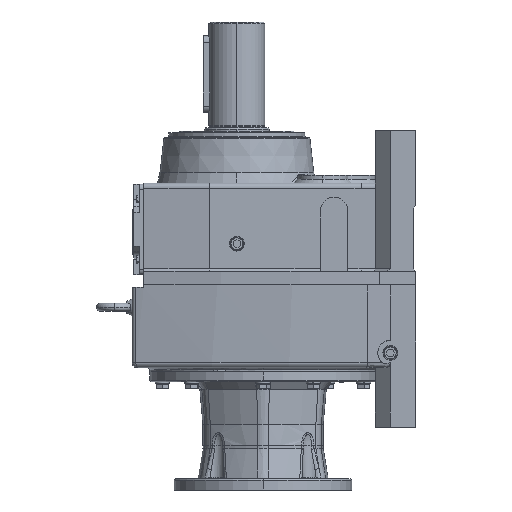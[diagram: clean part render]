
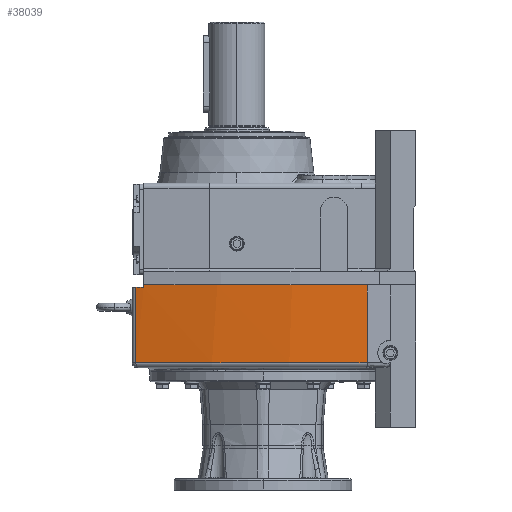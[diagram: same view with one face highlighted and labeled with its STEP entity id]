
A CAD part, left-side view. The second image highlights one B-rep face of the part: STEP entity #38039.
In plain terms, the highlighted cylindrical face has radius 1500 mm (diameter 3000 mm), a partial arc.
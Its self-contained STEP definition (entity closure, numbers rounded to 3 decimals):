
#1341 = VECTOR ( 'NONE', #34321, 1000. ) ;
#6334 = DIRECTION ( 'NONE',  ( 1., 0., 0. ) ) ;
#6562 = DIRECTION ( 'NONE',  ( 0., 0., 1. ) ) ;
#6763 = CARTESIAN_POINT ( 'NONE',  ( 1233.2, -191.138, -438. ) ) ;
#9316 = LINE ( 'NONE', #34323, #1341 ) ;
#9831 = VERTEX_POINT ( 'NONE', #13769 ) ;
#9833 = VERTEX_POINT ( 'NONE', #14008 ) ;
#13769 = CARTESIAN_POINT ( 'NONE',  ( -265.276, -258.733, -283.5 ) ) ;
#14008 = CARTESIAN_POINT ( 'NONE',  ( -218.874, 185., -283.5 ) ) ;
#14443 = DIRECTION ( 'NONE',  ( -1., 0., 0. ) ) ;
#14453 = CARTESIAN_POINT ( 'NONE',  ( 1233.2, -191.138, -283.5 ) ) ;
#14464 = DIRECTION ( 'NONE',  ( 0., 0., 1. ) ) ;
#15962 = AXIS2_PLACEMENT_3D ( 'NONE', #14453, #14464, #14443 ) ;
#15968 = CIRCLE ( 'NONE', #15962, 1500. ) ;
#20273 = CARTESIAN_POINT ( 'NONE',  ( -265.276, -258.733, -438. ) ) ;
#21431 = AXIS2_PLACEMENT_3D ( 'NONE', #22285, #22303, #22298 ) ;
#21462 = CIRCLE ( 'NONE', #21465, 1500. ) ;
#21464 = VECTOR ( 'NONE', #22615, 1000. ) ;
#21465 = AXIS2_PLACEMENT_3D ( 'NONE', #22618, #22619, #22609 ) ;
#21821 = VECTOR ( 'NONE', #23618, 1000. ) ;
#22285 = CARTESIAN_POINT ( 'NONE',  ( 1233.2, -191.138, -448. ) ) ;
#22298 = DIRECTION ( 'NONE',  ( 0., 1., 0. ) ) ;
#22303 = DIRECTION ( 'NONE',  ( 0., 0., 1. ) ) ;
#22609 = DIRECTION ( 'NONE',  ( 1., 0., 0. ) ) ;
#22615 = DIRECTION ( 'NONE',  ( 0., 0., -1. ) ) ;
#22618 = CARTESIAN_POINT ( 'NONE',  ( 1233.2, -191.138, -288.5 ) ) ;
#22619 = DIRECTION ( 'NONE',  ( 0., 0., -1. ) ) ;
#22625 = CARTESIAN_POINT ( 'NONE',  ( -218.874, 185., -448. ) ) ;
#23618 = DIRECTION ( 'NONE',  ( 0., 0., -1. ) ) ;
#23624 = CARTESIAN_POINT ( 'NONE',  ( -214.741, 200.612, -448. ) ) ;
#28015 = EDGE_CURVE ( 'NONE', #32196, #29250, #35559, .T. ) ;
#29250 = VERTEX_POINT ( 'NONE', #20273 ) ;
#29778 = LINE ( 'NONE', #22625, #21464 ) ;
#29792 = CYLINDRICAL_SURFACE ( 'NONE', #21431, 1500. ) ;
#29824 = LINE ( 'NONE', #23624, #21821 ) ;
#29851 = FACE_OUTER_BOUND ( 'NONE', #37531, .T. ) ;
#30665 = ORIENTED_EDGE ( 'NONE', *, *, #38085, .T. ) ;
#30666 = ORIENTED_EDGE ( 'NONE', *, *, #37947, .T. ) ;
#30667 = ORIENTED_EDGE ( 'NONE', *, *, #38086, .T. ) ;
#30668 = ORIENTED_EDGE ( 'NONE', *, *, #28015, .T. ) ;
#30669 = ORIENTED_EDGE ( 'NONE', *, *, #43939, .F. ) ;
#30671 = ORIENTED_EDGE ( 'NONE', *, *, #34855, .T. ) ;
#32118 = VERTEX_POINT ( 'NONE', #34539 ) ;
#32196 = VERTEX_POINT ( 'NONE', #34548 ) ;
#32207 = VERTEX_POINT ( 'NONE', #34494 ) ;
#34321 = DIRECTION ( 'NONE',  ( 0., 0., 1. ) ) ;
#34323 = CARTESIAN_POINT ( 'NONE',  ( -265.276, -258.733, -448. ) ) ;
#34494 = CARTESIAN_POINT ( 'NONE',  ( -218.874, 185., -288.5 ) ) ;
#34539 = CARTESIAN_POINT ( 'NONE',  ( -214.741, 200.612, -288.5 ) ) ;
#34548 = CARTESIAN_POINT ( 'NONE',  ( -214.741, 200.612, -438. ) ) ;
#34855 = EDGE_CURVE ( 'NONE', #29250, #9831, #9316, .T. ) ;
#35559 = CIRCLE ( 'NONE', #35624, 1500. ) ;
#35624 = AXIS2_PLACEMENT_3D ( 'NONE', #6763, #6562, #6334 ) ;
#37531 = EDGE_LOOP ( 'NONE', ( #30665, #30667, #30666, #30668, #30671, #30669 ) ) ;
#37947 = EDGE_CURVE ( 'NONE', #32118, #32196, #29824, .T. ) ;
#38039 = ADVANCED_FACE ( 'NONE', ( #29851 ), #29792, .T. ) ;
#38085 = EDGE_CURVE ( 'NONE', #9833, #32207, #29778, .T. ) ;
#38086 = EDGE_CURVE ( 'NONE', #32207, #32118, #21462, .T. ) ;
#43939 = EDGE_CURVE ( 'NONE', #9833, #9831, #15968, .T. ) ;
